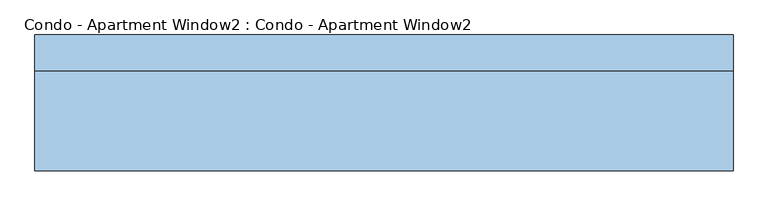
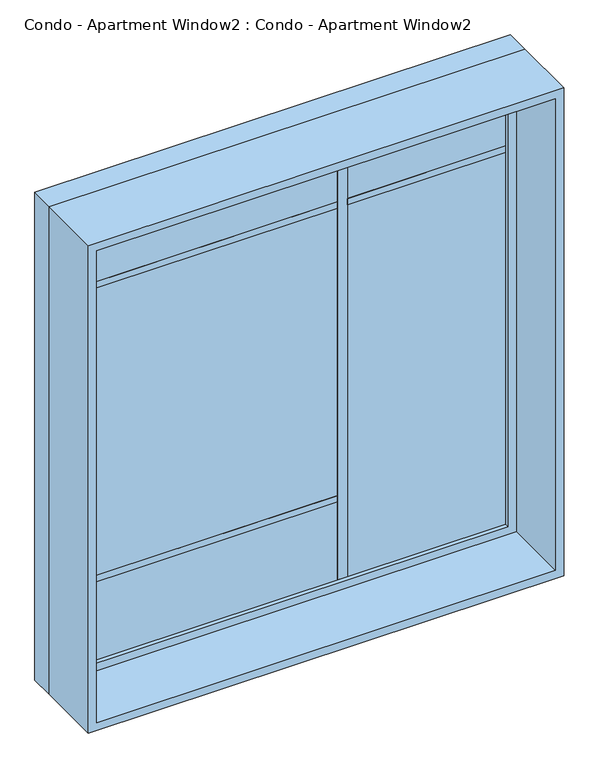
"""IFC4 building model written with IfcOpenShell, lengths in millimetres: window geometry, Condo - Apartment Window2 : Condo - Apartment Window2."""

from ifc_helpers import new_model, si_unit, frame, origin, place, context, project, spatial, polyline, outline, extrude, source, transform, mapped, element, save


def condo_apartment_window2_condo_apartment_window2_ac6c58d4(model_context):
    return source(origin(), model_context, "Body", "SweptSolid", [
        extrude(outline(polyline([(165.1, 123.825), (203.2, 123.825), (203.2, 98.425), (165.1, 98.425), (165.1, 123.825)])), frame((0.0, 0.0, 660.4), z_axis=(0.0, 0.0, 1.0), x_axis=(1.0, 0.0, 0.0)), (0.0, 0.0, 1.0), 1854.2),
        extrude(outline(polyline([(-889.0, 123.825), (165.1, 123.825), (165.1, 98.425), (-889.0, 98.425), (-889.0, 123.825)])), frame((0.0, 0.0, 977.9), z_axis=(0.0, 0.0, 1.0), x_axis=(1.0, 0.0, 0.0)), (0.0, 0.0, 1.0), 25.4),
        extrude(outline(polyline([(-889.0, 123.825), (165.1, 123.825), (165.1, 98.425), (-889.0, 98.425), (-889.0, 123.825)])), frame((0.0, 0.0, 2171.7), z_axis=(0.0, 0.0, 1.0), x_axis=(1.0, 0.0, 0.0)), (0.0, 0.0, 1.0), 25.4),
        extrude(outline(polyline([(203.2, 123.825), (812.8, 123.825), (812.8, 98.425), (203.2, 98.425), (203.2, 123.825)])), frame((0.0, 0.0, 2171.7), z_axis=(0.0, 0.0, 1.0), x_axis=(1.0, 0.0, 0.0)), (0.0, 0.0, 1.0), 25.4),
        extrude(outline(polyline([(812.8, 98.425), (-889.0, 98.425), (-889.0, 111.125), (812.8, 111.125), (812.8, 98.425)])), frame((0.0, 0.0, 660.4), z_axis=(0.0, 0.0, 1.0), x_axis=(1.0, 0.0, 0.0)), (0.0, 0.0, 1.0), 1854.2),
        extrude(outline(polyline([(2559.05, -933.45), (615.95, -933.45), (615.95, 857.25), (2559.05, 857.25), (2559.05, -933.45)]), holes=[polyline([(2514.6, -889.0), (2514.6, 812.8), (660.4, 812.8), (660.4, -889.0), (2514.6, -889.0)])]), frame((0.0, 82.55, 0.0), z_axis=(0.0, 1.0, 0.0), x_axis=(0.0, 0.0, 1.0)), (0.0, 0.0, 1.0), 44.45),
        extrude(outline(polyline([(2578.1, -952.5), (596.9, -952.5), (596.9, 876.3), (2578.1, 876.3), (2578.1, -952.5)]), holes=[polyline([(2546.35, -920.75), (2546.35, 844.55), (628.65, 844.55), (628.65, -920.75), (2546.35, -920.75)])]), frame((0.0, -177.8, 0.0), z_axis=(0.0, 1.0, 0.0), x_axis=(0.0, 0.0, 1.0)), (0.0, 0.0, 1.0), 260.35),
        extrude(outline(polyline([(2578.1, 876.3), (2578.1, -952.5), (596.9, -952.5), (596.9, 876.3), (2578.1, 876.3)]), holes=[polyline([(2559.05, 857.25), (615.95, 857.25), (615.95, -933.45), (2559.05, -933.45), (2559.05, 857.25)])]), frame((0.0, 82.55, 0.0), z_axis=(0.0, 1.0, 0.0), x_axis=(0.0, 0.0, 1.0)), (0.0, 0.0, 1.0), 95.25),
    ])


if __name__ == "__main__":
    model = new_model("IFC4")
    model_context = context("Model", 3, world=origin())
    ifc_project = project(units=[si_unit("LENGTHUNIT", "METRE", prefix="MILLI")], contexts=[model_context])
    site = spatial("IfcSite", under=ifc_project)
    building = spatial("IfcBuilding", under=site)
    placement = place(None, origin())
    condo_apartment_window2_condo_apartment_window2_shape = condo_apartment_window2_condo_apartment_window2_ac6c58d4(model_context)
    element("IfcWindow", 1, ObjectType="Condo - Apartment Window2 : Condo - Apartment Window2", at=placement, inside=building, context=model_context, shape_type="MappedRepresentation", body=[
        mapped(condo_apartment_window2_condo_apartment_window2_shape, transform((0.0, 0.0, 0.0), x_axis=(1.0, 0.0, 0.0), y_axis=(0.0, 1.0, 0.0), z_axis=(0.0, 0.0, 1.0))),
    ])
    save(model, "model.ifc")
